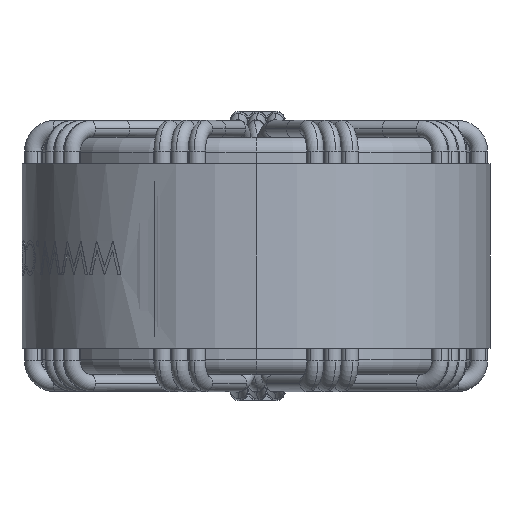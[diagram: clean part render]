
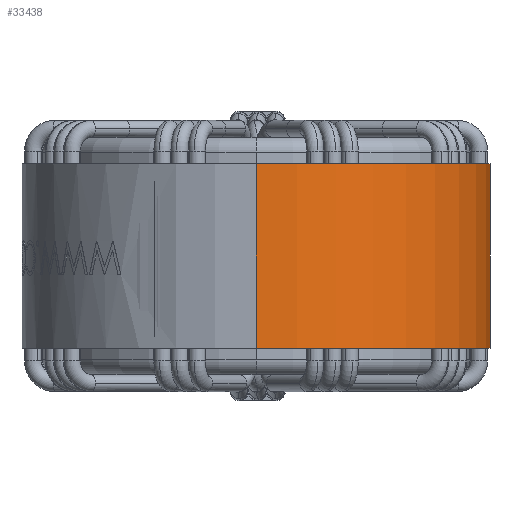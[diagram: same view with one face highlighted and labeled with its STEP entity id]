
A CAD part, left-side view. The second image highlights one B-rep face of the part: STEP entity #33438.
In plain terms, the highlighted cylindrical face has radius 31.761 mm (diameter 63.522 mm), a partial arc.
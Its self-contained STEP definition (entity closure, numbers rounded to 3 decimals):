
#467 = CARTESIAN_POINT ( 'NONE',  ( 31.761, 0., 12.5 ) ) ;
#952 = AXIS2_PLACEMENT_3D ( 'NONE', #35258, #24029, #19956 ) ;
#2251 = ORIENTED_EDGE ( 'NONE', *, *, #41659, .T. ) ;
#2520 = CARTESIAN_POINT ( 'NONE',  ( -31.761, 0., -12.5 ) ) ;
#2982 = CARTESIAN_POINT ( 'NONE',  ( 0., 0., 12.5 ) ) ;
#6404 = VERTEX_POINT ( 'NONE', #2520 ) ;
#6887 = DIRECTION ( 'NONE',  ( 1., 0., 0. ) ) ;
#9946 = EDGE_CURVE ( 'NONE', #6404, #40837, #40167, .T. ) ;
#10966 = VERTEX_POINT ( 'NONE', #37218 ) ;
#11623 = EDGE_LOOP ( 'NONE', ( #41624, #47350, #2251, #31276 ) ) ;
#13484 = DIRECTION ( 'NONE',  ( 0., 0., -1. ) ) ;
#13965 = CARTESIAN_POINT ( 'NONE',  ( 0., 0., 12.5 ) ) ;
#14439 = DIRECTION ( 'NONE',  ( 0., 0., -1. ) ) ;
#19956 = DIRECTION ( 'NONE',  ( 1., 0., 0. ) ) ;
#20783 = LINE ( 'NONE', #22144, #31322 ) ;
#22144 = CARTESIAN_POINT ( 'NONE',  ( 31.761, 0., 12.5 ) ) ;
#22816 = CARTESIAN_POINT ( 'NONE',  ( -31.761, 0., 12.5 ) ) ;
#24029 = DIRECTION ( 'NONE',  ( 0., 0., 1. ) ) ;
#24225 = EDGE_CURVE ( 'NONE', #40527, #40837, #20783, .T. ) ;
#31276 = ORIENTED_EDGE ( 'NONE', *, *, #9946, .T. ) ;
#31322 = VECTOR ( 'NONE', #14439, 1000. ) ;
#31773 = DIRECTION ( 'NONE',  ( -1., 0., 0. ) ) ;
#33438 = ADVANCED_FACE ( 'NONE', ( #34370 ), #40162, .T. ) ;
#34230 = DIRECTION ( 'NONE',  ( 0., 0., -1. ) ) ;
#34370 = FACE_OUTER_BOUND ( 'NONE', #11623, .T. ) ;
#35258 = CARTESIAN_POINT ( 'NONE',  ( 0., 0., -12.5 ) ) ;
#37218 = CARTESIAN_POINT ( 'NONE',  ( -31.761, 0., 12.5 ) ) ;
#38193 = AXIS2_PLACEMENT_3D ( 'NONE', #2982, #43946, #6887 ) ;
#40162 = CYLINDRICAL_SURFACE ( 'NONE', #42174, 31.761 ) ;
#40167 = CIRCLE ( 'NONE', #952, 31.761 ) ;
#40285 = CIRCLE ( 'NONE', #38193, 31.761 ) ;
#40527 = VERTEX_POINT ( 'NONE', #467 ) ;
#40643 = CARTESIAN_POINT ( 'NONE',  ( 31.761, 0., -12.5 ) ) ;
#40837 = VERTEX_POINT ( 'NONE', #40643 ) ;
#41624 = ORIENTED_EDGE ( 'NONE', *, *, #24225, .F. ) ;
#41659 = EDGE_CURVE ( 'NONE', #10966, #6404, #47405, .T. ) ;
#42119 = EDGE_CURVE ( 'NONE', #10966, #40527, #40285, .T. ) ;
#42174 = AXIS2_PLACEMENT_3D ( 'NONE', #13965, #13484, #31773 ) ;
#43946 = DIRECTION ( 'NONE',  ( 0., 0., 1. ) ) ;
#45658 = VECTOR ( 'NONE', #34230, 1000. ) ;
#47350 = ORIENTED_EDGE ( 'NONE', *, *, #42119, .F. ) ;
#47405 = LINE ( 'NONE', #22816, #45658 ) ;
